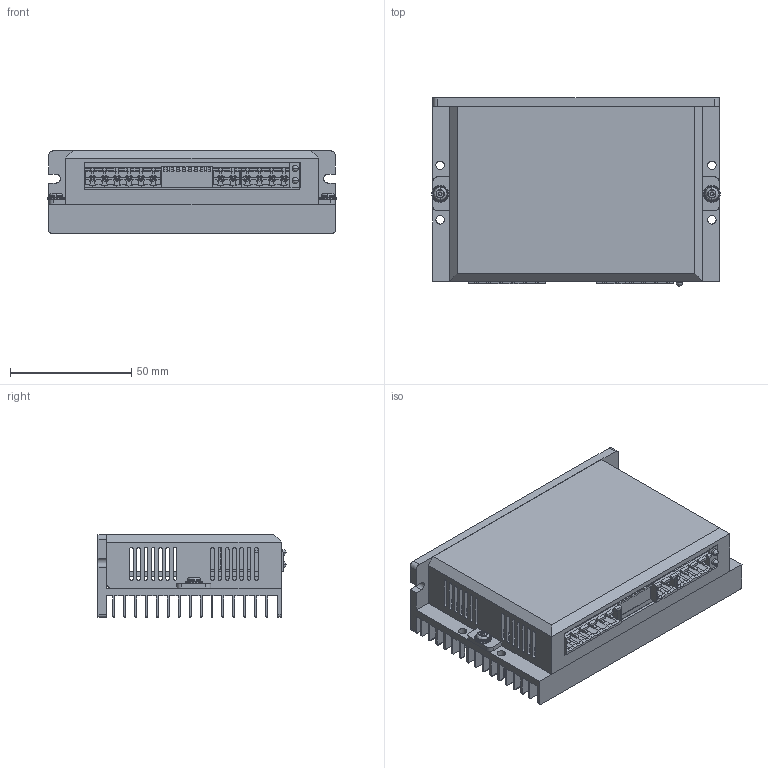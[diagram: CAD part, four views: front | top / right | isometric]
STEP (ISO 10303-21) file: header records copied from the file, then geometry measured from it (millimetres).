
FILE_DESCRIPTION (( 'STEP AP214' ), '1' );
FILE_NAME ('DM556E_3D.STEP', '2019-08-07T00:52:07', ( 'hwtest' ), ( 'Microsoft' ), 'SwSTEP 2.0', 'SolidWorks 2014', '' );
FILE_SCHEMA (( 'AUTOMOTIVE_DESIGN' ));
Length unit declared in the file: millimetre
Products named in the file (1): DM556E_3D
Bounding box: 119 x 77.5 x 34 mm (x, y, z)
Volume: 93086.3 mm3; surface area: 104211.4 mm2
Topology: 10 solids, 10 shells, 1504 faces, 4214 edges, 2750 vertices
Faces by surface type: plane 1102, cylinder 340, cone 38, bspline 24
Entity records: 72856 total; most frequent: CARTESIAN_POINT 17854, ORIENTED_EDGE 8420, DIRECTION 7316, EDGE_CURVE 4210, LINE 3248, VECTOR 3248, VERTEX_POINT 2750, AXIS2_PLACEMENT_3D 2034
